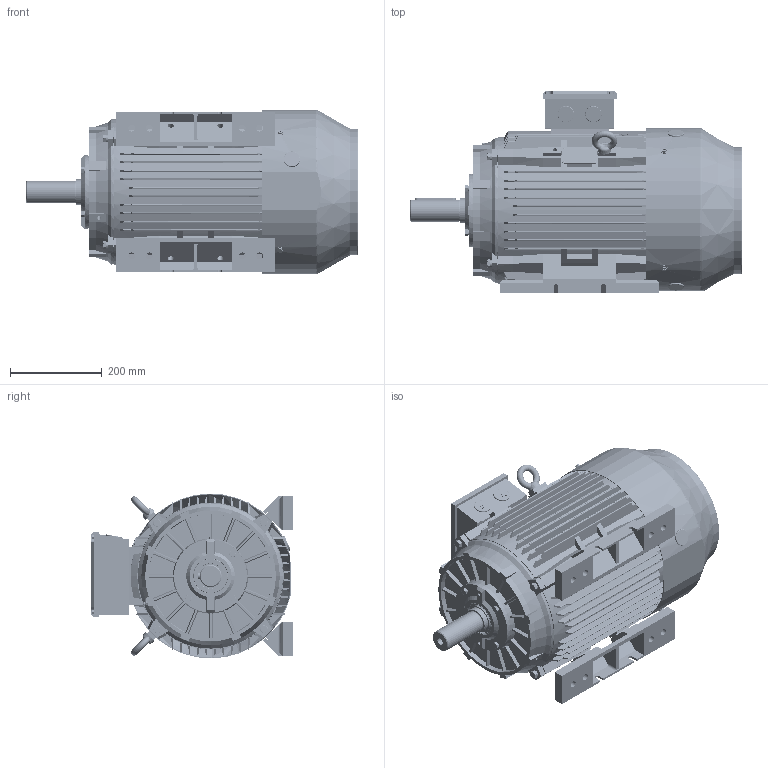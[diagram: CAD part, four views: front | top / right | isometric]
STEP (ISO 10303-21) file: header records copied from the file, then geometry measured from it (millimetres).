
FILE_DESCRIPTION (( 'STEP AP214' ), '1' );
FILE_NAME ('BCT4150.18H603.11.step', '2020-04-23T15:05:27', ( '' ), ( '' ), 'SwSTEP 2.0', 'SolidWorks 2019', '' );
FILE_SCHEMA (( 'AUTOMOTIVE_DESIGN' ));
Length unit declared in the file: millimetre
Products named in the file (1): BCT4150.18H603.11
Bounding box: 725 x 441 x 359.96 mm (x, y, z)
Volume: 11983393.3 mm3; surface area: 3314075.2 mm2
Topology: 53 solids, 53 shells, 6847 faces, 19460 edges, 12664 vertices
Faces by surface type: plane 3222, cylinder 2595, cone 385, torus 252, bspline 211, sphere 182
Entity records: 255146 total; most frequent: CARTESIAN_POINT 74783, ORIENTED_EDGE 38572, DIRECTION 36689, EDGE_CURVE 19286, AXIS2_PLACEMENT_3D 12865, VERTEX_POINT 12612, VECTOR 10959, LINE 10959
